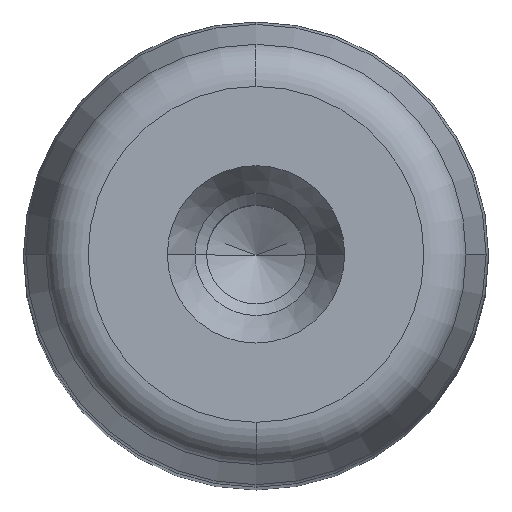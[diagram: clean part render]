
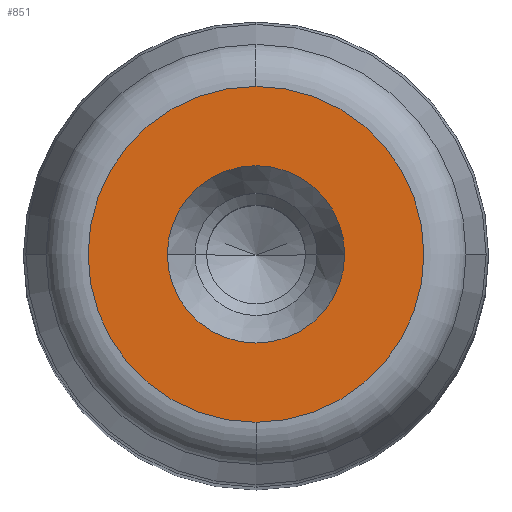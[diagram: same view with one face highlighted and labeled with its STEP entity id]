
A CAD part, top view. The second image highlights one B-rep face of the part: STEP entity #851.
In plain terms, the highlighted planar face has unit normal (0, 0, 1) as drawn and (0, 1, 0) by its records, which use the part's own axes.
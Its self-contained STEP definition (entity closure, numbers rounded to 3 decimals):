
#281=CARTESIAN_POINT('',(6.1,125.0,0.0));
#282=VERTEX_POINT('',#281);
#289=CARTESIAN_POINT('',(-6.1,125.0,0.));
#290=VERTEX_POINT('',#289);
#291=CARTESIAN_POINT('',(0.0,125.0,0.0));
#292=DIRECTION('',(0.0,1.0,0.0));
#293=DIRECTION('',(1.0,0.0,0.0));
#294=AXIS2_PLACEMENT_3D('',#291,#292,#293);
#295=CIRCLE('',#294,6.1);
#296=EDGE_CURVE('',#282,#290,#295,.T.);
#313=CARTESIAN_POINT('',(0.0,125.0,11.554));
#314=VERTEX_POINT('',#313);
#324=CARTESIAN_POINT('',(0.,125.0,-11.554));
#325=VERTEX_POINT('',#324);
#326=CARTESIAN_POINT('',(0.0,125.0,0.0));
#327=DIRECTION('',(0.0,1.0,0.0));
#328=DIRECTION('',(1.0,0.0,0.0));
#329=AXIS2_PLACEMENT_3D('',#326,#327,#328);
#330=CIRCLE('',#329,11.554);
#331=EDGE_CURVE('',#325,#314,#330,.T.);
#812=CARTESIAN_POINT('',(11.554,125.0,0.0));
#813=VERTEX_POINT('',#812);
#814=CARTESIAN_POINT('',(0.0,125.0,0.0));
#815=DIRECTION('',(0.0,1.0,0.0));
#816=DIRECTION('',(1.0,0.0,0.0));
#817=AXIS2_PLACEMENT_3D('',#814,#815,#816);
#818=CIRCLE('',#817,11.554);
#819=EDGE_CURVE('',#813,#325,#818,.T.);
#821=CARTESIAN_POINT('',(0.0,125.0,0.0));
#822=DIRECTION('',(0.0,1.0,0.0));
#823=DIRECTION('',(1.0,0.0,0.0));
#824=AXIS2_PLACEMENT_3D('',#821,#822,#823);
#825=CIRCLE('',#824,11.554);
#826=EDGE_CURVE('',#314,#813,#825,.T.);
#831=CARTESIAN_POINT('',(-12.71,125.0,-12.71));
#832=DIRECTION('',(0.0,1.0,0.0));
#833=DIRECTION('',(0.0,0.0,1.0));
#834=AXIS2_PLACEMENT_3D('',#831,#832,#833);
#835=PLANE('',#834);
#836=ORIENTED_EDGE('',*,*,#819,.T.);
#837=ORIENTED_EDGE('',*,*,#331,.T.);
#838=ORIENTED_EDGE('',*,*,#826,.T.);
#839=EDGE_LOOP('',(#836,#837,#838));
#840=FACE_OUTER_BOUND('',#839,.T.);
#841=ORIENTED_EDGE('',*,*,#296,.F.);
#842=CARTESIAN_POINT('',(0.0,125.0,0.0));
#843=DIRECTION('',(0.0,1.0,0.0));
#844=DIRECTION('',(1.0,0.0,0.0));
#845=AXIS2_PLACEMENT_3D('',#842,#843,#844);
#846=CIRCLE('',#845,6.1);
#847=EDGE_CURVE('',#290,#282,#846,.T.);
#848=ORIENTED_EDGE('',*,*,#847,.F.);
#849=EDGE_LOOP('',(#841,#848));
#850=FACE_BOUND('',#849,.T.);
#851=ADVANCED_FACE('',(#840,#850),#835,.T.);
